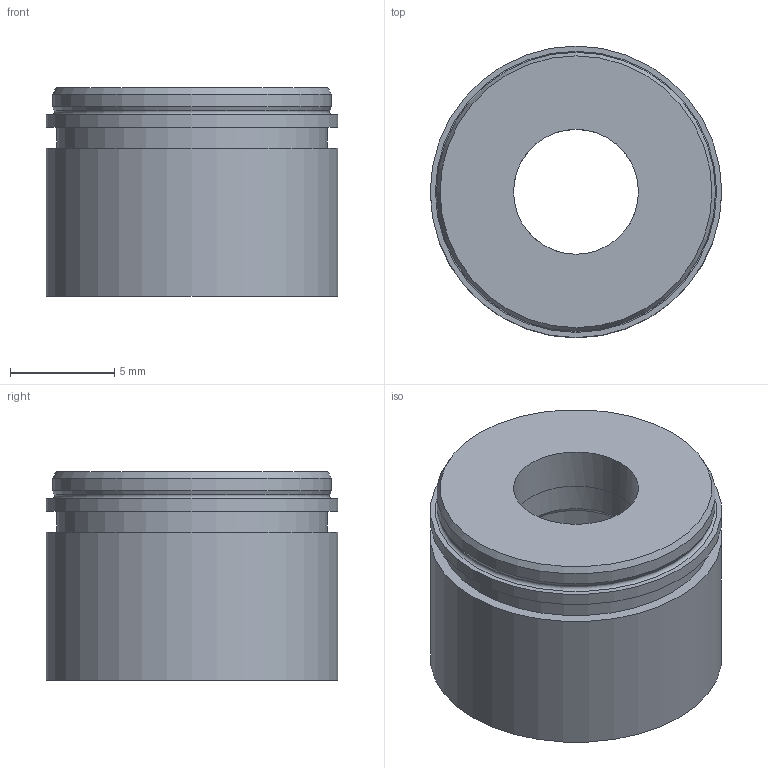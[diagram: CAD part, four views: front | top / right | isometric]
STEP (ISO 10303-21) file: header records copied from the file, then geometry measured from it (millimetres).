
FILE_DESCRIPTION(/* description */ (''),/* implementation_level */ '2;1');
FILE_NAME(/* name */ '14GPT_flange_c_416.5954.01.stp',/* time_stamp */ '2024-11-12T10:52:11+01:00',/* author */ ('DR. FRITZ FAULHABER GmbH & Co. KG'),/* organization */ ('DR. FRITZ FAULHABER GmbH & Co. KG'),/* preprocessor_version */ 'ST-DEVELOPER v19.3',/* originating_system */ 'SIEMENS PLM Software NX2212.4000',/* authorisation */ '');
FILE_SCHEMA (('AUTOMOTIVE_DESIGN { 1 0 10303 214 3 1 1 1 }'));
Length unit declared in the file: millimetre
Products named in the file (1): A_objects
Bounding box: 14 x 14 x 10 mm (x, y, z)
Volume: 531.9 mm3; surface area: 1044.2 mm2
Topology: 1 solids, 1 shells, 18 faces, 32 edges, 20 vertices
Faces by surface type: cylinder 7, plane 6, cone 4, torus 1
Full cylindrical faces by diameter (mm): 6 x2, 13 x2, 13.4 x1, 14 x2
Entity records: 414 total; most frequent: DIRECTION 72, CARTESIAN_POINT 72, FACE_BOUND 36, EDGE_LOOP 36, ORIENTED_EDGE 36, AXIS2_PLACEMENT_3D 36, ADVANCED_FACE 18, VERTEX_POINT 18
